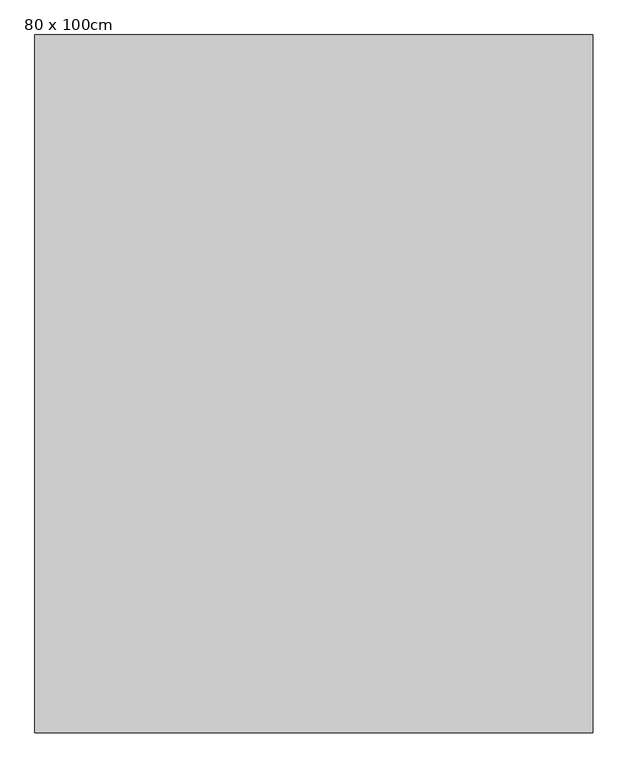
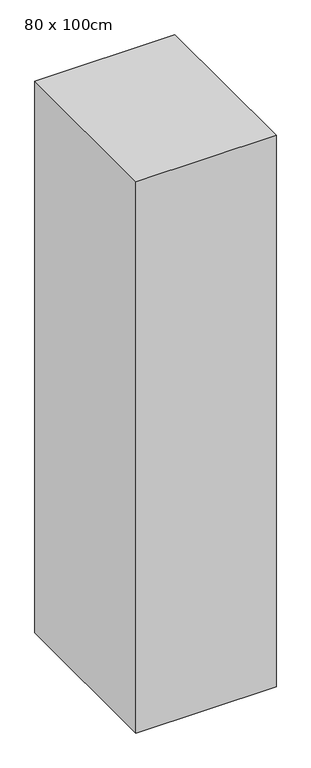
"""IFC4 building model written with IfcOpenShell, lengths in millimetres: column geometry, 混凝土柱-矩形 : 80 x 100cm."""

import ifcopenshell
import ifcopenshell.guid

model = None  # the IFC model being written
_history = None  # IfcOwnerHistory: only IFC2X3 demands one
_inside = {}  # id of a spatial element -> (the spatial element, [elements in it])
_under = {}  # id of a project, library or spatial element -> (it, [spatial elements below it])
_declared = {}  # id of a project -> (the project, [libraries it declares])
_typed = {}  # id of a type object -> (the type object, [elements of that type])
_made_of = {}  # id of a material, layer set ... -> (it, [elements and type objects made of it])


def new_model(schema):
    """Start an empty IFC model of exactly this schema.

    Asked for "IFC4X3", IfcOpenShell would pick the latest addendum, in which some entities
    have other attributes; the version numbers below select the first issue.
    IFC2X3 requires an IfcOwnerHistory on every rooted entity: one is made here for all.
    """
    global model, _history
    if schema == "IFC4X3":
        model = ifcopenshell.file(schema_version=(4, 3, 0, 0))
    else:
        model = ifcopenshell.file(schema=schema)
    _inside.clear()
    _under.clear()
    _declared.clear()
    _typed.clear()
    _made_of.clear()
    _history = None
    if model.schema == "IFC2X3":
        org = make("IfcOrganization", Name="unknown")
        user = make(
            "IfcPersonAndOrganization",
            ThePerson=make("IfcPerson", FamilyName="unknown"),
            TheOrganization=org,
        )
        app = make(
            "IfcApplication",
            ApplicationDeveloper=org,
            Version="unknown",
            ApplicationFullName="unknown",
            ApplicationIdentifier="unknown",
        )
        _history = make(
            "IfcOwnerHistory",
            OwningUser=user,
            OwningApplication=app,
            ChangeAction="ADDED",
            CreationDate=0,
        )
    return model


def make(cls, **values):
    """One entity of the class cls with the attributes given. An attribute that is None is left unset."""
    return model.create_entity(
        cls, **{name: value for name, value in values.items() if value is not None}
    )


def rooted(cls, **values):
    """An entity with a GlobalId (a new one), such as an element, a storey or a relation."""
    return make(cls, GlobalId=ifcopenshell.guid.new(), OwnerHistory=_history, **values)


def si_unit(unit_type, name, prefix=None):
    """IfcSIUnit, for example si_unit("LENGTHUNIT", "METRE", prefix="MILLI")."""
    return make("IfcSIUnit", UnitType=unit_type, Prefix=prefix, Name=name)


def assignment(units):
    """IfcUnitAssignment: the units of a project."""
    return None if units is None else make("IfcUnitAssignment", Units=units)


def point(xyz):
    """IfcCartesianPoint."""
    return None if xyz is None else make("IfcCartesianPoint", Coordinates=xyz)


def direction(xyz):
    """IfcDirection."""
    return None if xyz is None else make("IfcDirection", DirectionRatios=xyz)


def frame(location, z_axis=None, x_axis=None):
    """IfcAxis2Placement3D, a coordinate frame: its origin and axes. An axis left out is left unset."""
    return make(
        "IfcAxis2Placement3D",
        Location=point(location),
        Axis=direction(z_axis),
        RefDirection=direction(x_axis),
    )


def origin():
    """The frame at (0, 0, 0) with its axes left unset."""
    return frame((0.0, 0.0, 0.0))


def origin_with_axes():
    """The frame at (0, 0, 0) with the z axis (0, 0, 1) and the x axis (1, 0, 0) written out."""
    return frame((0.0, 0.0, 0.0), z_axis=(0.0, 0.0, 1.0), x_axis=(1.0, 0.0, 0.0))


def place(relative_to, where):
    """IfcLocalPlacement: puts the frame where relative to a parent placement (None: the world)."""
    return make(
        "IfcLocalPlacement", PlacementRelTo=relative_to, RelativePlacement=where
    )


def context(
    kind, dimensions, precision=None, world=None, true_north=None, identifier=None
):
    """IfcGeometricRepresentationContext, for example the 3D "Model" context."""
    return make(
        "IfcGeometricRepresentationContext",
        ContextIdentifier=identifier,
        ContextType=kind,
        CoordinateSpaceDimension=dimensions,
        Precision=precision,
        WorldCoordinateSystem=world,
        TrueNorth=true_north,
    )


def project(units=None, contexts=None):
    """IfcProject with its units and contexts."""
    return rooted(
        "IfcProject",
        Name="project",
        RepresentationContexts=contexts,
        UnitsInContext=assignment(units),
    )


def spatial(cls, under=None, at=None, **own):
    """A site, building, storey or space (cls), placed at a placement, below another one or the project."""
    s = rooted(cls, ObjectPlacement=at, **own)
    if under is not None:
        _under.setdefault(under.id(), (under, []))[1].append(s)
    return s


def polyline(points):
    """IfcPolyline through the points."""
    return make("IfcPolyline", Points=[point(p) for p in points])


def outline(outer, holes=None, kind="AREA"):
    """IfcArbitraryClosedProfileDef: a profile drawn as a closed curve; with holes, ...WithVoids."""
    if holes is None:
        return make("IfcArbitraryClosedProfileDef", ProfileType=kind, OuterCurve=outer)
    return make(
        "IfcArbitraryProfileDefWithVoids",
        ProfileType=kind,
        OuterCurve=outer,
        InnerCurves=holes,
    )


def extrude(swept, where, along, depth):
    """IfcExtrudedAreaSolid: the profile swept, set in the frame where, extruded along a direction by depth."""
    return make(
        "IfcExtrudedAreaSolid",
        SweptArea=swept,
        Position=where,
        ExtrudedDirection=direction(along),
        Depth=depth,
    )


def shape(context_of_items, identifier, shape_type, items):
    """IfcShapeRepresentation: the items that make up one representation, for example the "Body"."""
    return make(
        "IfcShapeRepresentation",
        ContextOfItems=context_of_items,
        RepresentationIdentifier=identifier,
        RepresentationType=shape_type,
        Items=items,
    )


def source(mapping_origin, context_of_items, identifier, shape_type, items):
    """IfcRepresentationMap: a shape defined once, which mapped items show again and again."""
    return make(
        "IfcRepresentationMap",
        MappingOrigin=mapping_origin,
        MappedRepresentation=shape(context_of_items, identifier, shape_type, items),
    )


def transform(
    local_origin,
    x_axis=None,
    y_axis=None,
    z_axis=None,
    scale=None,
    scale2=None,
    scale3=None,
    uniform=True,
):
    """IfcCartesianTransformationOperator3D, or its non-uniform kind. x_axis, y_axis, z_axis: its Axis1, 2, 3."""
    if uniform:
        return make(
            "IfcCartesianTransformationOperator3D",
            Axis1=direction(x_axis),
            Axis2=direction(y_axis),
            LocalOrigin=point(local_origin),
            Scale=scale,
            Axis3=direction(z_axis),
        )
    return make(
        "IfcCartesianTransformationOperator3DnonUniform",
        Axis1=direction(x_axis),
        Axis2=direction(y_axis),
        LocalOrigin=point(local_origin),
        Scale=scale,
        Axis3=direction(z_axis),
        Scale2=scale2,
        Scale3=scale3,
    )


def mapped(mapping_source, mapping_target):
    """IfcMappedItem: shows the shape of a source again, moved by a transform."""
    return make(
        "IfcMappedItem", MappingSource=mapping_source, MappingTarget=mapping_target
    )


def made_of(thing, what):
    """Note that an element or type object is made of a material, layer set ...; save() writes the relation."""
    if what is not None:
        _made_of.setdefault(what.id(), (what, []))[1].append(thing)
    return thing


def element(
    cls,
    number,
    at=None,
    inside=None,
    cuts=None,
    type_object=None,
    material=None,
    context=None,
    identifier="Body",
    shape_type=None,
    held_by="IfcProductDefinitionShape",
    body=None,
    shapes=None,
    **own,
):
    """One element of the class cls, such as IfcWall. Its Tag is "e" and its number.

    at: its placement. inside: the storey or other place that contains it. cuts: it is an
    opening in that element (IfcRelVoidsElement). A single representation is given by context,
    identifier, shape_type and body (its items); several are given by shapes. held_by: the class
    of the entity that holds the representations. save() writes the other relations.
    """
    e = rooted(cls, Tag="e%d" % number, ObjectPlacement=at, **own)
    if body is not None:
        shapes = [shape(context, identifier, shape_type, body)]
    if shapes is not None:
        e.Representation = make(held_by, Representations=shapes)
    if inside is not None:
        _inside.setdefault(inside.id(), (inside, []))[1].append(e)
    if cuts is not None:
        rooted(
            "IfcRelVoidsElement", RelatingBuildingElement=cuts, RelatedOpeningElement=e
        )
    if type_object is not None:
        _typed.setdefault(type_object.id(), (type_object, []))[1].append(e)
    return made_of(e, material)


def aggregate(whole, parts):
    """IfcRelAggregates: a whole, such as a stair, and the parts it consists of."""
    return rooted("IfcRelAggregates", RelatingObject=whole, RelatedObjects=parts)


def save(model, path):
    """Write the relations noted so far, then the file.

    IfcRelAggregates (storeys below a building ...), IfcRelContainedInSpatialStructure (elements
    in a storey), IfcRelDefinesByType, IfcRelAssociatesMaterial and IfcRelDeclares: one each for
    every whole, place, type object, material and project.
    """
    for whole, parts in _under.values():
        aggregate(whole, parts)
    for where, things in _inside.values():
        rooted(
            "IfcRelContainedInSpatialStructure",
            RelatedElements=things,
            RelatingStructure=where,
        )
    for kind, things in _typed.values():
        rooted("IfcRelDefinesByType", RelatedObjects=things, RelatingType=kind)
    for what, things in _made_of.values():
        rooted("IfcRelAssociatesMaterial", RelatedObjects=things, RelatingMaterial=what)
    for by, libraries in _declared.values():
        rooted("IfcRelDeclares", RelatingContext=by, RelatedDefinitions=libraries)
    model.write(path)


def column_80_x_100cm_881e18c4(model_context):
    return source(origin(), model_context, "Body", "SweptSolid", [
        extrude(outline(polyline([(400.0, 500.0), (400.0, -500.0), (-400.0, -500.0), (-400.0, 500.0), (400.0, 500.0)])), origin_with_axes(), (0.0, 0.0, 1.0), 3330.0),
    ])


if __name__ == "__main__":
    model = new_model("IFC4")
    model_context = context("Model", 3, world=origin())
    ifc_project = project(units=[si_unit("LENGTHUNIT", "METRE", prefix="MILLI")], contexts=[model_context])
    site = spatial("IfcSite", under=ifc_project)
    building = spatial("IfcBuilding", under=site)
    placement = place(None, origin())
    column_80_x_100cm_shape = column_80_x_100cm_881e18c4(model_context)
    element("IfcColumn", 1, ObjectType="混凝土柱-矩形 : 80 x 100cm", at=placement, inside=building, context=model_context, shape_type="MappedRepresentation", body=[
        mapped(column_80_x_100cm_shape, transform((0.0, 0.0, 0.0), x_axis=(1.0, 0.0, 0.0), y_axis=(0.0, 1.0, 0.0), z_axis=(0.0, 0.0, 1.0))),
    ])
    save(model, "model.ifc")
